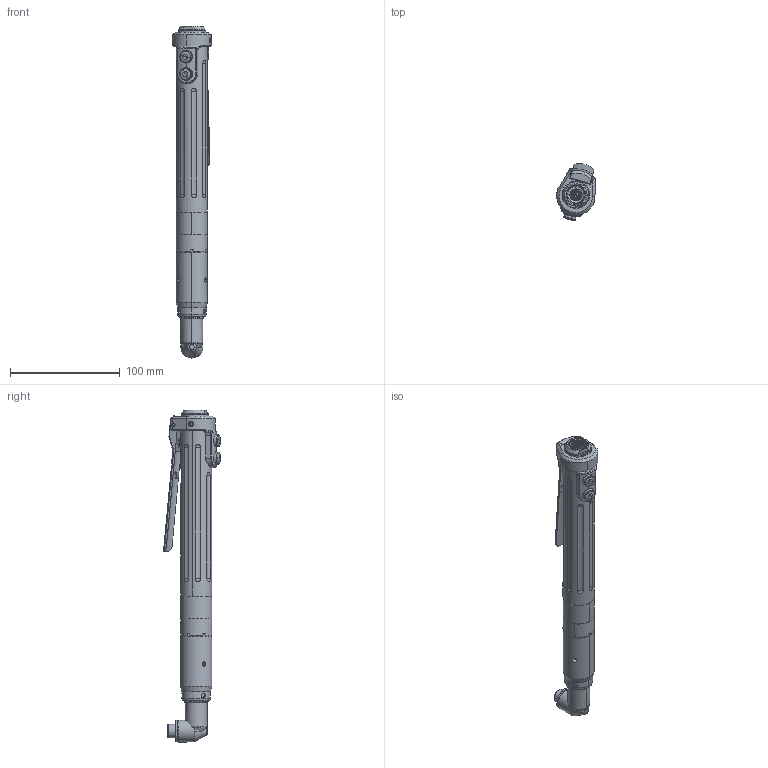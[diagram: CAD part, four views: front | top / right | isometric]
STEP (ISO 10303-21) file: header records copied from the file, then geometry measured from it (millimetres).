
FILE_DESCRIPTION (( 'STEP AP214' ), '1' );
FILE_NAME ('ASG-SD2500-50RQ-J.STEP', '2023-01-17T16:54:29', ( '' ), ( '' ), 'SwSTEP 2.0', 'SolidWorks 2022', '' );
FILE_SCHEMA (( 'AUTOMOTIVE_DESIGN' ));
Length unit declared in the file: millimetre
Products named in the file (1): ASG-SD2500-50RQ-J
Bounding box: 35.18 x 51.94 x 303.03 mm (x, y, z)
Surface area: 43958.1 mm2 (no closed solid volume)
Topology: 0 solids, 29 shells, 458 faces, 1332 edges, 898 vertices
Faces by surface type: cylinder 177, plane 105, torus 74, cone 50, bspline 44, sphere 8
Entity records: 29703 total; most frequent: CARTESIAN_POINT 13129, ORIENTED_EDGE 2313, DIRECTION 2310, EDGE_CURVE 1332, AXIS2_PLACEMENT_3D 951, VERTEX_POINT 898, CIRCLE 536, EDGE_LOOP 525
